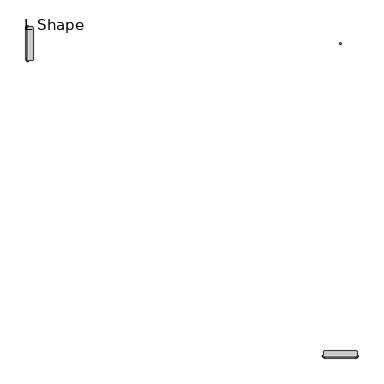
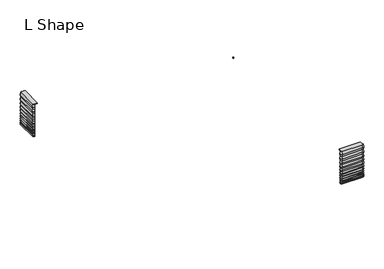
"""IFC4 building model written with IfcOpenShell, lengths in millimetres: light fixture geometry, Lighting-Ceiling-Betacalco-Bellows-L_Shape : L Shape."""

from ifc_helpers import new_model, si_unit, point, frame, frame_2d, origin, place, context, project, spatial, polyline, circle_curve, trimmed, segment, composite_curve, outline, extrude, source, transform, mapped, element, save
from ifc_brep_helpers import plane_surface, revolved_surface, advanced_brep


def l_shape_c2484b83(model_context):
    return source(origin(), model_context, "Body", "SolidModel", [
        advanced_brep(
        [(339.9474913, -609.6, 2.032), (338.1694913, -609.6, 0.0), (271.4305087, -609.6, 0.0), (269.6525087, -609.6, 2.032), (271.4305087, -609.6, 4.064), (269.6525087, -609.6, 6.604), (271.4305087, -609.6, 9.144), (269.6525087, -609.6, 12.192), (271.4305087, -609.6, 15.24), (269.6525087, -609.6, 18.796), (271.4305087, -609.6, 22.352), (269.6525087, -609.6, 26.162), (271.4305087, -609.6, 29.972), (269.68115, -609.6, 34.4703509), (271.4033085, -609.6, 39.0460566), (269.6760032, -609.6, 44.1288728), (271.4080872, -609.6, 49.2119386), (269.6721122, -609.6, 54.802389), (271.4117251, -609.6, 60.3929656), (269.6691034, -609.6, 66.491104), (271.4151056, -609.6, 72.5911894), (269.6648295, -609.6, 79.7067168), (271.4184005, -609.6, 86.8195673), (269.6640174, -609.6, 94.186321), (271.4305087, -609.6, 101.6), (272.1770822, -609.6, 101.6), (272.1770822, -609.6, 100.2332722), (337.4229178, -609.6, 100.2332722), (337.4229178, -609.6, 101.6), (338.1694913, -609.6, 101.6), (339.9359826, -609.6, 94.186321), (338.1815995, -609.6, 86.8195673), (339.9351705, -609.6, 79.7067168), (338.1848944, -609.6, 72.5911894), (339.9308966, -609.6, 66.491104), (338.1882749, -609.6, 60.3929656), (339.9278878, -609.6, 54.802389), (338.1919128, -609.6, 49.2119386), (339.9239968, -609.6, 44.1288728), (338.1966915, -609.6, 39.0460566), (339.91885, -609.6, 34.4703509), (338.1694913, -609.6, 29.972), (339.9474913, -609.6, 26.162), (338.1694913, -609.6, 22.352), (339.9474913, -609.6, 18.796), (338.1694913, -609.6, 15.24), (339.9474913, -609.6, 12.192), (338.1694913, -609.6, 9.144), (339.9474913, -609.6, 6.604), (338.1694913, -609.6, 4.064), (334.7564913, -614.791, 2.032), (334.7564913, -613.013, 0.0), (274.8435087, -613.013, 0.0), (334.7564913, -613.013, 101.6), (337.3154703, -600.7807007, 101.6), (336.2000598, -599.6222216, 101.6), (273.3999402, -599.6222216, 101.6), (272.2845297, -600.7807007, 101.6), (274.8435087, -613.013, 101.6), (334.7564913, -614.7794913, 94.186321), (334.7564913, -613.0251082, 86.8195673), (334.7564913, -614.7786792, 79.7067168), (334.7564913, -613.0284031, 72.5911894), (334.7564913, -614.7744054, 66.491104), (334.7564913, -613.0317837, 60.3929656), (334.7564913, -614.7713965, 54.802389), (334.7564913, -613.0354215, 49.2119386), (334.7564913, -614.7675055, 44.1288728), (334.7564913, -613.0402002, 39.0460566), (334.7564913, -614.7623587, 34.4703509), (334.7564913, -613.013, 29.972), (334.7564913, -614.791, 26.162), (334.7564913, -613.013, 22.352), (334.7564913, -614.791, 18.796), (334.7564913, -613.013, 15.24), (334.7564913, -614.791, 12.192), (334.7564913, -613.013, 9.144), (334.7564913, -614.791, 6.604), (334.7564913, -613.013, 4.064), (274.8435087, -614.791, 2.032), (274.8435087, -614.7794913, 94.186321), (274.8435087, -613.0251082, 86.8195673), (274.8435087, -614.7786792, 79.7067168), (274.8435087, -613.0284031, 72.5911894), (274.8435087, -614.7744054, 66.491104), (274.8435087, -613.0317837, 60.3929656), (274.8435087, -614.7713965, 54.802389), (274.8435087, -613.0354215, 49.2119386), (274.8435087, -614.7675055, 44.1288728), (274.8435087, -613.0402002, 39.0460566), (274.8435087, -614.7623587, 34.4703509), (274.8435087, -613.013, 29.972), (274.8435087, -614.791, 26.162), (274.8435087, -613.013, 22.352), (274.8435087, -614.791, 18.796), (274.8435087, -613.013, 15.24), (274.8435087, -614.791, 12.192), (274.8435087, -613.013, 9.144), (274.8435087, -614.791, 6.604), (274.8435087, -613.013, 4.064), (273.3999402, -599.6222216, 100.2332722), (336.2000598, -599.6222216, 100.2332722), (337.3154703, -600.7807007, 100.2332722), (272.2845297, -600.7807007, 100.2332722)],
        [
            (0, 1),
            (1, 2),
            (2, 3),
            (3, 4),
            (4, 5),
            (5, 6),
            (6, 7),
            (7, 8),
            (8, 9),
            (9, 10),
            (10, 11),
            (11, 12),
            (12, 13),
            (13, 14),
            (14, 15),
            (15, 16),
            (16, 17),
            (17, 18),
            (18, 19),
            (19, 20),
            (20, 21),
            (21, 22),
            (22, 23),
            (23, 24),
            (24, 25),
            (25, 26),
            (26, 27),
            (27, 28),
            (28, 29),
            (29, 30),
            (30, 31),
            (31, 32),
            (32, 33),
            (33, 34),
            (34, 35),
            (35, 36),
            (36, 37),
            (37, 38),
            (38, 39),
            (39, 40),
            (40, 41),
            (41, 42),
            (42, 43),
            (43, 44),
            (44, 45),
            (45, 46),
            (46, 47),
            (47, 48),
            (48, 49),
            (49, 0),
            (0, 50, circle_curve(frame((334.7564913, -609.6, 2.032), z_axis=(0.0, 0.0, -1.0), x_axis=(1.0, 0.0, 0.0)), 5.191)),
            (50, 51),
            (51, 1, circle_curve(frame((334.7564913, -609.6, 0.0), z_axis=(0.0, 0.0, 1.0), x_axis=(1.0, 0.0, 0.0)), 3.413)),
            (51, 52),
            (52, 2, circle_curve(frame((274.8435087, -609.6, 0.0), z_axis=(0.0, 0.0, -1.0), x_axis=(0.0, -1.0, 0.0)), 3.413)),
            (53, 29, circle_curve(frame((334.7564913, -609.6, 101.6), z_axis=(0.0, 0.0, 1.0), x_axis=(1.0, 0.0, 0.0)), 3.413)),
            (28, 54),
            (54, 55),
            (55, 56),
            (56, 57),
            (57, 25),
            (24, 58, circle_curve(frame((274.8435087, -609.6, 101.6), z_axis=(0.0, 0.0, 1.0), x_axis=(0.0, -1.0, 0.0)), 3.413)),
            (58, 53),
            (53, 59),
            (59, 30, circle_curve(frame((334.7564913, -609.6, 94.186321), z_axis=(0.0, 0.0, 1.0), x_axis=(1.0, 0.0, 0.0)), 5.1794913)),
            (59, 60),
            (60, 31, circle_curve(frame((334.7564913, -609.6, 86.8195673), z_axis=(0.0, 0.0, 1.0), x_axis=(1.0, 0.0, 0.0)), 3.4251082)),
            (60, 61),
            (61, 32, circle_curve(frame((334.7564913, -609.6, 79.7067168), z_axis=(0.0, 0.0, 1.0), x_axis=(1.0, 0.0, 0.0)), 5.1786792)),
            (61, 62),
            (62, 33, circle_curve(frame((334.7564913, -609.6, 72.5911894), z_axis=(0.0, 0.0, 1.0), x_axis=(1.0, 0.0, 0.0)), 3.4284031)),
            (62, 63),
            (63, 34, circle_curve(frame((334.7564913, -609.6, 66.491104), z_axis=(0.0, 0.0, 1.0), x_axis=(1.0, 0.0, 0.0)), 5.1744054)),
            (63, 64),
            (64, 35, circle_curve(frame((334.7564913, -609.6, 60.3929656), z_axis=(0.0, 0.0, 1.0), x_axis=(1.0, 0.0, 0.0)), 3.4317837)),
            (64, 65),
            (65, 36, circle_curve(frame((334.7564913, -609.6, 54.802389), z_axis=(0.0, 0.0, 1.0), x_axis=(1.0, 0.0, 0.0)), 5.1713965)),
            (65, 66),
            (66, 37, circle_curve(frame((334.7564913, -609.6, 49.2119386), z_axis=(0.0, 0.0, 1.0), x_axis=(1.0, 0.0, 0.0)), 3.4354215)),
            (66, 67),
            (67, 38, circle_curve(frame((334.7564913, -609.6, 44.1288728), z_axis=(0.0, 0.0, 1.0), x_axis=(1.0, 0.0, 0.0)), 5.1675055)),
            (67, 68),
            (68, 39, circle_curve(frame((334.7564913, -609.6, 39.0460566), z_axis=(0.0, 0.0, 1.0), x_axis=(1.0, 0.0, 0.0)), 3.4402002)),
            (68, 69),
            (69, 40, circle_curve(frame((334.7564913, -609.6, 34.4703509), z_axis=(0.0, 0.0, 1.0), x_axis=(1.0, 0.0, 0.0)), 5.1623587)),
            (69, 70),
            (70, 41, circle_curve(frame((334.7564913, -609.6, 29.972), z_axis=(0.0, 0.0, 1.0), x_axis=(1.0, 0.0, 0.0)), 3.413)),
            (70, 71),
            (71, 42, circle_curve(frame((334.7564913, -609.6, 26.162), z_axis=(0.0, 0.0, 1.0), x_axis=(1.0, 0.0, 0.0)), 5.191)),
            (71, 72),
            (72, 43, circle_curve(frame((334.7564913, -609.6, 22.352), z_axis=(0.0, 0.0, 1.0), x_axis=(1.0, 0.0, 0.0)), 3.413)),
            (72, 73),
            (73, 44, circle_curve(frame((334.7564913, -609.6, 18.796), z_axis=(0.0, 0.0, 1.0), x_axis=(1.0, 0.0, 0.0)), 5.191)),
            (73, 74),
            (74, 45, circle_curve(frame((334.7564913, -609.6, 15.24), z_axis=(0.0, 0.0, 1.0), x_axis=(1.0, 0.0, 0.0)), 3.413)),
            (74, 75),
            (75, 46, circle_curve(frame((334.7564913, -609.6, 12.192), z_axis=(0.0, 0.0, 1.0), x_axis=(1.0, 0.0, 0.0)), 5.191)),
            (75, 76),
            (76, 47, circle_curve(frame((334.7564913, -609.6, 9.144), z_axis=(0.0, 0.0, 1.0), x_axis=(1.0, 0.0, 0.0)), 3.413)),
            (76, 77),
            (77, 48, circle_curve(frame((334.7564913, -609.6, 6.604), z_axis=(0.0, 0.0, 1.0), x_axis=(1.0, 0.0, 0.0)), 5.191)),
            (77, 78),
            (78, 49, circle_curve(frame((334.7564913, -609.6, 4.064), z_axis=(0.0, 0.0, 1.0), x_axis=(1.0, 0.0, 0.0)), 3.413)),
            (78, 50),
            (50, 79),
            (79, 52),
            (58, 80),
            (80, 59),
            (80, 81),
            (81, 60),
            (81, 82),
            (82, 61),
            (82, 83),
            (83, 62),
            (83, 84),
            (84, 63),
            (84, 85),
            (85, 64),
            (85, 86),
            (86, 65),
            (86, 87),
            (87, 66),
            (87, 88),
            (88, 67),
            (88, 89),
            (89, 68),
            (89, 90),
            (90, 69),
            (90, 91),
            (91, 70),
            (91, 92),
            (92, 71),
            (92, 93),
            (93, 72),
            (93, 94),
            (94, 73),
            (94, 95),
            (95, 74),
            (95, 96),
            (96, 75),
            (96, 97),
            (97, 76),
            (97, 98),
            (98, 77),
            (98, 99),
            (99, 78),
            (99, 79),
            (100, 101),
            (101, 102),
            (102, 27),
            (26, 103),
            (103, 100),
            (56, 100),
            (103, 57),
            (102, 54),
            (101, 55),
            (79, 3, circle_curve(frame((274.8435087, -609.6, 2.032), z_axis=(0.0, 0.0, -1.0), x_axis=(0.0, -1.0, 0.0)), 5.191)),
            (23, 80, circle_curve(frame((274.8435087, -609.6, 94.186321), z_axis=(0.0, 0.0, 1.0), x_axis=(0.0, -1.0, 0.0)), 5.1794913)),
            (22, 81, circle_curve(frame((274.8435087, -609.6, 86.8195673), z_axis=(0.0, 0.0, 1.0), x_axis=(0.0, -1.0, 0.0)), 3.4251082)),
            (21, 82, circle_curve(frame((274.8435087, -609.6, 79.7067168), z_axis=(0.0, 0.0, 1.0), x_axis=(0.0, -1.0, 0.0)), 5.1786792)),
            (20, 83, circle_curve(frame((274.8435087, -609.6, 72.5911894), z_axis=(0.0, 0.0, 1.0), x_axis=(0.0, -1.0, 0.0)), 3.4284031)),
            (19, 84, circle_curve(frame((274.8435087, -609.6, 66.491104), z_axis=(0.0, 0.0, 1.0), x_axis=(0.0, -1.0, 0.0)), 5.1744054)),
            (18, 85, circle_curve(frame((274.8435087, -609.6, 60.3929656), z_axis=(0.0, 0.0, 1.0), x_axis=(0.0, -1.0, 0.0)), 3.4317837)),
            (17, 86, circle_curve(frame((274.8435087, -609.6, 54.802389), z_axis=(0.0, 0.0, 1.0), x_axis=(0.0, -1.0, 0.0)), 5.1713965)),
            (16, 87, circle_curve(frame((274.8435087, -609.6, 49.2119386), z_axis=(0.0, 0.0, 1.0), x_axis=(0.0, -1.0, 0.0)), 3.4354215)),
            (15, 88, circle_curve(frame((274.8435087, -609.6, 44.1288728), z_axis=(0.0, 0.0, 1.0), x_axis=(0.0, -1.0, 0.0)), 5.1675055)),
            (14, 89, circle_curve(frame((274.8435087, -609.6, 39.0460566), z_axis=(0.0, 0.0, 1.0), x_axis=(0.0, -1.0, 0.0)), 3.4402002)),
            (13, 90, circle_curve(frame((274.8435087, -609.6, 34.4703509), z_axis=(0.0, 0.0, 1.0), x_axis=(0.0, -1.0, 0.0)), 5.1623587)),
            (12, 91, circle_curve(frame((274.8435087, -609.6, 29.972), z_axis=(0.0, 0.0, 1.0), x_axis=(0.0, -1.0, 0.0)), 3.413)),
            (11, 92, circle_curve(frame((274.8435087, -609.6, 26.162), z_axis=(0.0, 0.0, 1.0), x_axis=(0.0, -1.0, 0.0)), 5.191)),
            (10, 93, circle_curve(frame((274.8435087, -609.6, 22.352), z_axis=(0.0, 0.0, 1.0), x_axis=(0.0, -1.0, 0.0)), 3.413)),
            (9, 94, circle_curve(frame((274.8435087, -609.6, 18.796), z_axis=(0.0, 0.0, 1.0), x_axis=(0.0, -1.0, 0.0)), 5.191)),
            (8, 95, circle_curve(frame((274.8435087, -609.6, 15.24), z_axis=(0.0, 0.0, 1.0), x_axis=(0.0, -1.0, 0.0)), 3.413)),
            (7, 96, circle_curve(frame((274.8435087, -609.6, 12.192), z_axis=(0.0, 0.0, 1.0), x_axis=(0.0, -1.0, 0.0)), 5.191)),
            (6, 97, circle_curve(frame((274.8435087, -609.6, 9.144), z_axis=(0.0, 0.0, 1.0), x_axis=(0.0, -1.0, 0.0)), 3.413)),
            (5, 98, circle_curve(frame((274.8435087, -609.6, 6.604), z_axis=(0.0, 0.0, 1.0), x_axis=(0.0, -1.0, 0.0)), 5.191)),
            (4, 99, circle_curve(frame((274.8435087, -609.6, 4.064), z_axis=(0.0, 0.0, 1.0), x_axis=(0.0, -1.0, 0.0)), 3.413)),
        ],
        [
            plane_surface(frame((340.1935941, -609.6, 0.0), z_axis=(0.0, 1.0, 0.0), x_axis=(0.0, 0.0, 1.0))),
            revolved_surface(polyline([(339.9474913, -609.6, 2.032), (338.1694913, -609.6, 0.0)]), (334.7564913, -609.6, 0.0), (0.0, 0.0, -1.0)),
            plane_surface(frame((334.7564913, -609.6, 0.0), z_axis=(0.0, 0.0, -1.0), x_axis=(1.0, 0.0, 0.0))),
            plane_surface(frame((334.7564913, -609.6, 101.6), z_axis=(0.0, 0.0, 1.0), x_axis=(1.0, 0.0, 0.0))),
            revolved_surface(polyline([(338.1694913, -609.6, 101.6), (339.9359826, -609.6, 94.186321)]), (334.7564913, -609.6, 0.0), (0.0, 0.0, -1.0)),
            revolved_surface(polyline([(339.9359826, -609.6, 94.186321), (338.1815995, -609.6, 86.8195673)]), (334.7564913, -609.6, 0.0), (0.0, 0.0, -1.0)),
            revolved_surface(polyline([(338.1815995, -609.6, 86.8195673), (339.9351705, -609.6, 79.7067168)]), (334.7564913, -609.6, 0.0), (0.0, 0.0, -1.0)),
            revolved_surface(polyline([(339.9351705, -609.6, 79.7067168), (338.1848944, -609.6, 72.5911894)]), (334.7564913, -609.6, 0.0), (0.0, 0.0, -1.0)),
            revolved_surface(polyline([(338.1848944, -609.6, 72.5911894), (339.9308966, -609.6, 66.491104)]), (334.7564913, -609.6, 0.0), (0.0, 0.0, -1.0)),
            revolved_surface(polyline([(339.9308966, -609.6, 66.491104), (338.1882749, -609.6, 60.3929656)]), (334.7564913, -609.6, 0.0), (0.0, 0.0, -1.0)),
            revolved_surface(polyline([(338.1882749, -609.6, 60.3929656), (339.9278878, -609.6, 54.802389)]), (334.7564913, -609.6, 0.0), (0.0, 0.0, -1.0)),
            revolved_surface(polyline([(339.9278878, -609.6, 54.802389), (338.1919128, -609.6, 49.2119386)]), (334.7564913, -609.6, 0.0), (0.0, 0.0, -1.0)),
            revolved_surface(polyline([(338.1919128, -609.6, 49.2119386), (339.9239968, -609.6, 44.1288728)]), (334.7564913, -609.6, 0.0), (0.0, 0.0, -1.0)),
            revolved_surface(polyline([(339.9239968, -609.6, 44.1288728), (338.1966915, -609.6, 39.0460566)]), (334.7564913, -609.6, 0.0), (0.0, 0.0, -1.0)),
            revolved_surface(polyline([(338.1966915, -609.6, 39.0460566), (339.91885, -609.6, 34.4703509)]), (334.7564913, -609.6, 0.0), (0.0, 0.0, -1.0)),
            revolved_surface(polyline([(339.91885, -609.6, 34.4703509), (338.1694913, -609.6, 29.972)]), (334.7564913, -609.6, 0.0), (0.0, 0.0, -1.0)),
            revolved_surface(polyline([(338.1694913, -609.6, 29.972), (339.9474913, -609.6, 26.162)]), (334.7564913, -609.6, 0.0), (0.0, 0.0, -1.0)),
            revolved_surface(polyline([(339.9474913, -609.6, 26.162), (338.1694913, -609.6, 22.352)]), (334.7564913, -609.6, 0.0), (0.0, 0.0, -1.0)),
            revolved_surface(polyline([(338.1694913, -609.6, 22.352), (339.9474913, -609.6, 18.796)]), (334.7564913, -609.6, 0.0), (0.0, 0.0, -1.0)),
            revolved_surface(polyline([(339.9474913, -609.6, 18.796), (338.1694913, -609.6, 15.24)]), (334.7564913, -609.6, 0.0), (0.0, 0.0, -1.0)),
            revolved_surface(polyline([(338.1694913, -609.6, 15.24), (339.9474913, -609.6, 12.192)]), (334.7564913, -609.6, 0.0), (0.0, 0.0, -1.0)),
            revolved_surface(polyline([(339.9474913, -609.6, 12.192), (338.1694913, -609.6, 9.144)]), (334.7564913, -609.6, 0.0), (0.0, 0.0, -1.0)),
            revolved_surface(polyline([(338.1694913, -609.6, 9.144), (339.9474913, -609.6, 6.604)]), (334.7564913, -609.6, 0.0), (0.0, 0.0, -1.0)),
            revolved_surface(polyline([(339.9474913, -609.6, 6.604), (338.1694913, -609.6, 4.064)]), (334.7564913, -609.6, 0.0), (0.0, 0.0, -1.0)),
            revolved_surface(polyline([(338.1694913, -609.6, 4.064), (339.9474913, -609.6, 2.032)]), (334.7564913, -609.6, 0.0), (0.0, 0.0, -1.0)),
            plane_surface(frame((334.7564913, -614.791, 2.032), z_axis=(0.0, -0.7525766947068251, -0.6585046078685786), x_axis=(-1.0, 0.0, 0.0))),
            plane_surface(frame((334.7564913, -613.013, 101.6), z_axis=(0.0, -0.9727668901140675, 0.23178562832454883), x_axis=(-1.0, 0.0, 0.0))),
            plane_surface(frame((334.7564913, -614.7794913, 94.186321), z_axis=(0.0, -0.9727944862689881, -0.23166978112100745), x_axis=(-1.0, 0.0, 0.0))),
            plane_surface(frame((334.7564913, -613.0251082, 86.8195673), z_axis=(0.0, -0.9709287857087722, 0.23936852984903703), x_axis=(-1.0, 0.0, 0.0))),
            plane_surface(frame((334.7564913, -614.7786792, 79.7067168), z_axis=(0.0, -0.9710540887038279, -0.23885970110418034), x_axis=(-1.0, 0.0, 0.0))),
            plane_surface(frame((334.7564913, -613.0284031, 72.5911894), z_axis=(0.0, -0.9613939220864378, 0.27517581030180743), x_axis=(-1.0, 0.0, 0.0))),
            plane_surface(frame((334.7564913, -614.7744054, 66.491104), z_axis=(0.0, -0.9615116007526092, -0.2747643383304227), x_axis=(-1.0, 0.0, 0.0))),
            plane_surface(frame((334.7564913, -613.0317837, 60.3929656), z_axis=(0.0, -0.9548411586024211, 0.29711674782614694), x_axis=(-1.0, 0.0, 0.0))),
            plane_surface(frame((334.7564913, -614.7713965, 54.802389), z_axis=(0.0, -0.9550153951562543, -0.29655622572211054), x_axis=(-1.0, 0.0, 0.0))),
            plane_surface(frame((334.7564913, -613.0354215, 49.2119386), z_axis=(0.0, -0.9465545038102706, 0.3225439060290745), x_axis=(-1.0, 0.0, 0.0))),
            plane_surface(frame((334.7564913, -614.7675055, 44.1288728), z_axis=(0.0, -0.9468211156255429, -0.3217604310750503), x_axis=(-1.0, 0.0, 0.0))),
            plane_surface(frame((334.7564913, -613.0402002, 39.0460566), z_axis=(0.0, -0.9359069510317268, 0.3522473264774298), x_axis=(-1.0, 0.0, 0.0))),
            plane_surface(frame((334.7564913, -614.7623587, 34.4703509), z_axis=(0.0, -0.9320046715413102, -0.36244626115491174), x_axis=(-1.0, 0.0, 0.0))),
            plane_surface(frame((334.7564913, -613.013, 29.972), z_axis=(0.0, -0.9061831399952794, 0.42288546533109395), x_axis=(-1.0, 0.0, 0.0))),
            plane_surface(frame((334.7564913, -614.791, 26.162), z_axis=(0.0, -0.9061831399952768, -0.42288546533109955), x_axis=(-1.0, 0.0, 0.0))),
            plane_surface(frame((334.7564913, -613.013, 22.352), z_axis=(0.0, -0.8944271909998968, 0.4472135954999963), x_axis=(-1.0, 0.0, 0.0))),
            plane_surface(frame((334.7564913, -614.791, 18.796), z_axis=(0.0, -0.8944271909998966, -0.44721359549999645), x_axis=(-1.0, 0.0, 0.0))),
            plane_surface(frame((334.7564913, -613.013, 15.24), z_axis=(0.0, -0.8637789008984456, 0.5038710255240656), x_axis=(-1.0, 0.0, 0.0))),
            plane_surface(frame((334.7564913, -614.791, 12.192), z_axis=(0.0, -0.8637789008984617, -0.503871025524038), x_axis=(-1.0, 0.0, 0.0))),
            plane_surface(frame((334.7564913, -613.013, 9.144), z_axis=(0.0, -0.8192319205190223, 0.5734623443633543), x_axis=(-1.0, 0.0, 0.0))),
            plane_surface(frame((334.7564913, -614.791, 6.604), z_axis=(0.0, -0.8192319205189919, -0.5734623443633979), x_axis=(-1.0, 0.0, 0.0))),
            plane_surface(frame((334.7564913, -613.013, 4.064), z_axis=(0.0, -0.7525766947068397, 0.6585046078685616), x_axis=(-1.0, 0.0, 0.0))),
            plane_surface(frame((273.3999402, -599.6222216, 100.2332722), z_axis=(0.0, 0.0, -1.0), x_axis=(0.6935894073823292, 0.7203705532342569, 0.0))),
            plane_surface(frame((273.3999402, -599.6222216, 101.6), z_axis=(-0.7203705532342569, 0.6935894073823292, 0.0), x_axis=(0.0, 0.0, -1.0))),
            plane_surface(frame((272.2845297, -600.7807007, 101.6), z_axis=(-0.9999257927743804, 0.012182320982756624, 0.0), x_axis=(0.0, 0.0, -1.0))),
            plane_surface(frame((337.4229178, -609.6, 101.6), z_axis=(0.9999257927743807, 0.012182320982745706, 0.0), x_axis=(0.0, 0.0, -1.0))),
            plane_surface(frame((337.3154703, -600.7807007, 101.6), z_axis=(0.7203705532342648, 0.693589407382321, 0.0), x_axis=(0.0, 0.0, -1.0))),
            plane_surface(frame((336.2000598, -599.6222216, 101.6), z_axis=(0.0, 1.0, 0.0), x_axis=(0.0, 0.0, -1.0))),
            revolved_surface(polyline([(274.8435087, -614.791, 2.032), (274.8435087, -613.013, 0.0)]), (274.8435087, -609.6, 0.0), (0.0, 0.0, -1.0)),
            revolved_surface(polyline([(274.8435087, -613.013, 101.6), (274.8435087, -614.7794913, 94.186321)]), (274.8435087, -609.6, 0.0), (0.0, 0.0, -1.0)),
            revolved_surface(polyline([(274.8435087, -614.7794913, 94.186321), (274.8435087, -613.0251082, 86.8195673)]), (274.8435087, -609.6, 0.0), (0.0, 0.0, -1.0)),
            revolved_surface(polyline([(274.8435087, -613.0251082, 86.8195673), (274.8435087, -614.7786792, 79.7067168)]), (274.8435087, -609.6, 0.0), (0.0, 0.0, -1.0)),
            revolved_surface(polyline([(274.8435087, -614.7786792, 79.7067168), (274.8435087, -613.0284031, 72.5911894)]), (274.8435087, -609.6, 0.0), (0.0, 0.0, -1.0)),
            revolved_surface(polyline([(274.8435087, -613.0284031, 72.5911894), (274.8435087, -614.7744054, 66.491104)]), (274.8435087, -609.6, 0.0), (0.0, 0.0, -1.0)),
            revolved_surface(polyline([(274.8435087, -614.7744054, 66.491104), (274.8435087, -613.0317837, 60.3929656)]), (274.8435087, -609.6, 0.0), (0.0, 0.0, -1.0)),
            revolved_surface(polyline([(274.8435087, -613.0317837, 60.3929656), (274.8435087, -614.7713965, 54.802389)]), (274.8435087, -609.6, 0.0), (0.0, 0.0, -1.0)),
            revolved_surface(polyline([(274.8435087, -614.7713965, 54.802389), (274.8435087, -613.0354215, 49.2119386)]), (274.8435087, -609.6, 0.0), (0.0, 0.0, -1.0)),
            revolved_surface(polyline([(274.8435087, -613.0354215, 49.2119386), (274.8435087, -614.7675055, 44.1288728)]), (274.8435087, -609.6, 0.0), (0.0, 0.0, -1.0)),
            revolved_surface(polyline([(274.8435087, -614.7675055, 44.1288728), (274.8435087, -613.0402002, 39.0460566)]), (274.8435087, -609.6, 0.0), (0.0, 0.0, -1.0)),
            revolved_surface(polyline([(274.8435087, -613.0402002, 39.0460566), (274.8435087, -614.7623587, 34.4703509)]), (274.8435087, -609.6, 0.0), (0.0, 0.0, -1.0)),
            revolved_surface(polyline([(274.8435087, -614.7623587, 34.4703509), (274.8435087, -613.013, 29.972)]), (274.8435087, -609.6, 0.0), (0.0, 0.0, -1.0)),
            revolved_surface(polyline([(274.8435087, -613.013, 29.972), (274.8435087, -614.791, 26.162)]), (274.8435087, -609.6, 0.0), (0.0, 0.0, -1.0)),
            revolved_surface(polyline([(274.8435087, -614.791, 26.162), (274.8435087, -613.013, 22.352)]), (274.8435087, -609.6, 0.0), (0.0, 0.0, -1.0)),
            revolved_surface(polyline([(274.8435087, -613.013, 22.352), (274.8435087, -614.791, 18.796)]), (274.8435087, -609.6, 0.0), (0.0, 0.0, -1.0)),
            revolved_surface(polyline([(274.8435087, -614.791, 18.796), (274.8435087, -613.013, 15.24)]), (274.8435087, -609.6, 0.0), (0.0, 0.0, -1.0)),
            revolved_surface(polyline([(274.8435087, -613.013, 15.24), (274.8435087, -614.791, 12.192)]), (274.8435087, -609.6, 0.0), (0.0, 0.0, -1.0)),
            revolved_surface(polyline([(274.8435087, -614.791, 12.192), (274.8435087, -613.013, 9.144)]), (274.8435087, -609.6, 0.0), (0.0, 0.0, -1.0)),
            revolved_surface(polyline([(274.8435087, -613.013, 9.144), (274.8435087, -614.791, 6.604)]), (274.8435087, -609.6, 0.0), (0.0, 0.0, -1.0)),
            revolved_surface(polyline([(274.8435087, -614.791, 6.604), (274.8435087, -613.013, 4.064)]), (274.8435087, -609.6, 0.0), (0.0, 0.0, -1.0)),
            revolved_surface(polyline([(274.8435087, -613.013, 4.064), (274.8435087, -614.791, 2.032)]), (274.8435087, -609.6, 0.0), (0.0, 0.0, -1.0)),
        ],
        [
            (0, [[1, 2, 3, 4, 5, 6, 7, 8, 9, 10, 11, 12, 13, 14, 15, 16, 17, 18, 19, 20, 21, 22, 23, 24, 25, 26, 27, 28, 29, 30, 31, 32, 33, 34, 35, 36, 37, 38, 39, 40, 41, 42, 43, 44, 45, 46, 47, 48, 49, 50]]),
            (1, [[-1, 51, 52, 53]]),
            (2, [[-2, -53, 54, 55]]),
            (3, [[56, -29, 57, 58, 59, 60, 61, -25, 62, 63]]),
            (4, [[-30, -56, 64, 65]]),
            (5, [[-31, -65, 66, 67]]),
            (6, [[-32, -67, 68, 69]]),
            (7, [[-33, -69, 70, 71]]),
            (8, [[-34, -71, 72, 73]]),
            (9, [[-35, -73, 74, 75]]),
            (10, [[-36, -75, 76, 77]]),
            (11, [[-37, -77, 78, 79]]),
            (12, [[-38, -79, 80, 81]]),
            (13, [[-39, -81, 82, 83]]),
            (14, [[-40, -83, 84, 85]]),
            (15, [[-41, -85, 86, 87]]),
            (16, [[-42, -87, 88, 89]]),
            (17, [[-43, -89, 90, 91]]),
            (18, [[-44, -91, 92, 93]]),
            (19, [[-45, -93, 94, 95]]),
            (20, [[-46, -95, 96, 97]]),
            (21, [[-47, -97, 98, 99]]),
            (22, [[-48, -99, 100, 101]]),
            (23, [[-49, -101, 102, 103]]),
            (24, [[-50, -103, 104, -51]]),
            (25, [[-52, 105, 106, -54]]),
            (26, [[-63, 107, 108, -64]]),
            (27, [[-66, -108, 109, 110]]),
            (28, [[-68, -110, 111, 112]]),
            (29, [[-70, -112, 113, 114]]),
            (30, [[-72, -114, 115, 116]]),
            (31, [[-74, -116, 117, 118]]),
            (32, [[-76, -118, 119, 120]]),
            (33, [[-78, -120, 121, 122]]),
            (34, [[-80, -122, 123, 124]]),
            (35, [[-82, -124, 125, 126]]),
            (36, [[-84, -126, 127, 128]]),
            (37, [[-86, -128, 129, 130]]),
            (38, [[-88, -130, 131, 132]]),
            (39, [[-90, -132, 133, 134]]),
            (40, [[-92, -134, 135, 136]]),
            (41, [[-94, -136, 137, 138]]),
            (42, [[-96, -138, 139, 140]]),
            (43, [[-98, -140, 141, 142]]),
            (44, [[-100, -142, 143, 144]]),
            (45, [[-102, -144, 145, 146]]),
            (46, [[-104, -146, 147, -105]]),
            (47, [[148, 149, 150, -27, 151, 152]]),
            (48, [[-60, 153, -152, 154]]),
            (49, [[-61, -154, -151, -26]]),
            (50, [[-57, -28, -150, 155]]),
            (51, [[-58, -155, -149, 156]]),
            (52, [[-59, -156, -148, -153]]),
            (53, [[-55, -106, 157, -3]]),
            (54, [[-62, -24, 158, -107]]),
            (55, [[-109, -158, -23, 159]]),
            (56, [[-111, -159, -22, 160]]),
            (57, [[-113, -160, -21, 161]]),
            (58, [[-115, -161, -20, 162]]),
            (59, [[-117, -162, -19, 163]]),
            (60, [[-119, -163, -18, 164]]),
            (61, [[-121, -164, -17, 165]]),
            (62, [[-123, -165, -16, 166]]),
            (63, [[-125, -166, -15, 167]]),
            (64, [[-127, -167, -14, 168]]),
            (65, [[-129, -168, -13, 169]]),
            (66, [[-131, -169, -12, 170]]),
            (67, [[-133, -170, -11, 171]]),
            (68, [[-135, -171, -10, 172]]),
            (69, [[-137, -172, -9, 173]]),
            (70, [[-139, -173, -8, 174]]),
            (71, [[-141, -174, -7, 175]]),
            (72, [[-143, -175, -6, 176]]),
            (73, [[-145, -176, -5, 177]]),
            (74, [[-147, -177, -4, -157]]),
        ],
    ),
        advanced_brep(
        [(-304.8, -35.1474913, 2.032), (-304.8, -33.3694913, 0.0), (-304.8, 33.3694913, 0.0), (-304.8, 35.1474913, 2.032), (-304.8, 33.3694913, 4.064), (-304.8, 35.1474913, 6.604), (-304.8, 33.3694913, 9.144), (-304.8, 35.1474913, 12.192), (-304.8, 33.3694913, 15.24), (-304.8, 35.1474913, 18.796), (-304.8, 33.3694913, 22.352), (-304.8, 35.1474913, 26.162), (-304.8, 33.3694913, 29.972), (-304.8, 35.11885, 34.4703509), (-304.8, 33.3966915, 39.0460566), (-304.8, 35.1239968, 44.1288728), (-304.8, 33.3919128, 49.2119386), (-304.8, 35.1278878, 54.802389), (-304.8, 33.3882749, 60.3929656), (-304.8, 35.1308966, 66.491104), (-304.8, 33.3848944, 72.5911894), (-304.8, 35.1351705, 79.7067168), (-304.8, 33.3815995, 86.8195673), (-304.8, 35.1359826, 94.186321), (-304.8, 33.3694913, 101.6), (-304.8, 32.6229178, 101.6), (-304.8, 32.6229178, 100.2332722), (-304.8, -32.6229178, 100.2332722), (-304.8, -32.6229178, 101.6), (-304.8, -33.3694913, 101.6), (-304.8, -35.1359826, 94.186321), (-304.8, -33.3815995, 86.8195673), (-304.8, -35.1351705, 79.7067168), (-304.8, -33.3848944, 72.5911894), (-304.8, -35.1308966, 66.491104), (-304.8, -33.3882749, 60.3929656), (-304.8, -35.1278878, 54.802389), (-304.8, -33.3919128, 49.2119386), (-304.8, -35.1239968, 44.1288728), (-304.8, -33.3966915, 39.0460566), (-304.8, -35.11885, 34.4703509), (-304.8, -33.3694913, 29.972), (-304.8, -35.1474913, 26.162), (-304.8, -33.3694913, 22.352), (-304.8, -35.1474913, 18.796), (-304.8, -33.3694913, 15.24), (-304.8, -35.1474913, 12.192), (-304.8, -33.3694913, 9.144), (-304.8, -35.1474913, 6.604), (-304.8, -33.3694913, 4.064), (-309.991, -29.9564913, 2.032), (-308.213, -29.9564913, 0.0), (-308.213, 29.9564913, 0.0), (-308.213, -29.9564913, 101.6), (-295.9807007, -32.5154703, 101.6), (-294.8222216, -31.4000598, 101.6), (-294.8222216, 31.4000598, 101.6), (-295.9807007, 32.5154703, 101.6), (-308.213, 29.9564913, 101.6), (-309.9794913, -29.9564913, 94.186321), (-308.2251082, -29.9564913, 86.8195673), (-309.9786792, -29.9564913, 79.7067168), (-308.2284031, -29.9564913, 72.5911894), (-309.9744054, -29.9564913, 66.491104), (-308.2317837, -29.9564913, 60.3929656), (-309.9713965, -29.9564913, 54.802389), (-308.2354215, -29.9564913, 49.2119386), (-309.9675055, -29.9564913, 44.1288728), (-308.2402002, -29.9564913, 39.0460566), (-309.9623587, -29.9564913, 34.4703509), (-308.213, -29.9564913, 29.972), (-309.991, -29.9564913, 26.162), (-308.213, -29.9564913, 22.352), (-309.991, -29.9564913, 18.796), (-308.213, -29.9564913, 15.24), (-309.991, -29.9564913, 12.192), (-308.213, -29.9564913, 9.144), (-309.991, -29.9564913, 6.604), (-308.213, -29.9564913, 4.064), (-309.991, 29.9564913, 2.032), (-309.9794913, 29.9564913, 94.186321), (-308.2251082, 29.9564913, 86.8195673), (-309.9786792, 29.9564913, 79.7067168), (-308.2284031, 29.9564913, 72.5911894), (-309.9744054, 29.9564913, 66.491104), (-308.2317837, 29.9564913, 60.3929656), (-309.9713965, 29.9564913, 54.802389), (-308.2354215, 29.9564913, 49.2119386), (-309.9675055, 29.9564913, 44.1288728), (-308.2402002, 29.9564913, 39.0460566), (-309.9623587, 29.9564913, 34.4703509), (-308.213, 29.9564913, 29.972), (-309.991, 29.9564913, 26.162), (-308.213, 29.9564913, 22.352), (-309.991, 29.9564913, 18.796), (-308.213, 29.9564913, 15.24), (-309.991, 29.9564913, 12.192), (-308.213, 29.9564913, 9.144), (-309.991, 29.9564913, 6.604), (-308.213, 29.9564913, 4.064), (-294.8222216, 31.4000598, 100.2332722), (-294.8222216, -31.4000598, 100.2332722), (-295.9807007, -32.5154703, 100.2332722), (-295.9807007, 32.5154703, 100.2332722)],
        [
            (0, 1),
            (1, 2),
            (2, 3),
            (3, 4),
            (4, 5),
            (5, 6),
            (6, 7),
            (7, 8),
            (8, 9),
            (9, 10),
            (10, 11),
            (11, 12),
            (12, 13),
            (13, 14),
            (14, 15),
            (15, 16),
            (16, 17),
            (17, 18),
            (18, 19),
            (19, 20),
            (20, 21),
            (21, 22),
            (22, 23),
            (23, 24),
            (24, 25),
            (25, 26),
            (26, 27),
            (27, 28),
            (28, 29),
            (29, 30),
            (30, 31),
            (31, 32),
            (32, 33),
            (33, 34),
            (34, 35),
            (35, 36),
            (36, 37),
            (37, 38),
            (38, 39),
            (39, 40),
            (40, 41),
            (41, 42),
            (42, 43),
            (43, 44),
            (44, 45),
            (45, 46),
            (46, 47),
            (47, 48),
            (48, 49),
            (49, 0),
            (0, 50, circle_curve(frame((-304.8, -29.9564913, 2.032), z_axis=(0.0, 0.0, -1.0), x_axis=(0.0, -1.0, 0.0)), 5.191)),
            (50, 51),
            (51, 1, circle_curve(frame((-304.8, -29.9564913, 0.0), z_axis=(0.0, 0.0, 1.0), x_axis=(0.0, -1.0, 0.0)), 3.413)),
            (51, 52),
            (52, 2, circle_curve(frame((-304.8, 29.9564913, 0.0), z_axis=(0.0, 0.0, -1.0), x_axis=(-1.0, 0.0, 0.0)), 3.413)),
            (53, 29, circle_curve(frame((-304.8, -29.9564913, 101.6), z_axis=(0.0, 0.0, 1.0), x_axis=(0.0, -1.0, 0.0)), 3.413)),
            (28, 54),
            (54, 55),
            (55, 56),
            (56, 57),
            (57, 25),
            (24, 58, circle_curve(frame((-304.8, 29.9564913, 101.6), z_axis=(0.0, 0.0, 1.0), x_axis=(-1.0, 0.0, 0.0)), 3.413)),
            (58, 53),
            (53, 59),
            (59, 30, circle_curve(frame((-304.8, -29.9564913, 94.186321), z_axis=(0.0, 0.0, 1.0), x_axis=(0.0, -1.0, 0.0)), 5.1794913)),
            (59, 60),
            (60, 31, circle_curve(frame((-304.8, -29.9564913, 86.8195673), z_axis=(0.0, 0.0, 1.0), x_axis=(0.0, -1.0, 0.0)), 3.4251082)),
            (60, 61),
            (61, 32, circle_curve(frame((-304.8, -29.9564913, 79.7067168), z_axis=(0.0, 0.0, 1.0), x_axis=(0.0, -1.0, 0.0)), 5.1786792)),
            (61, 62),
            (62, 33, circle_curve(frame((-304.8, -29.9564913, 72.5911894), z_axis=(0.0, 0.0, 1.0), x_axis=(0.0, -1.0, 0.0)), 3.4284031)),
            (62, 63),
            (63, 34, circle_curve(frame((-304.8, -29.9564913, 66.491104), z_axis=(0.0, 0.0, 1.0), x_axis=(0.0, -1.0, 0.0)), 5.1744054)),
            (63, 64),
            (64, 35, circle_curve(frame((-304.8, -29.9564913, 60.3929656), z_axis=(0.0, 0.0, 1.0), x_axis=(0.0, -1.0, 0.0)), 3.4317837)),
            (64, 65),
            (65, 36, circle_curve(frame((-304.8, -29.9564913, 54.802389), z_axis=(0.0, 0.0, 1.0), x_axis=(0.0, -1.0, 0.0)), 5.1713965)),
            (65, 66),
            (66, 37, circle_curve(frame((-304.8, -29.9564913, 49.2119386), z_axis=(0.0, 0.0, 1.0), x_axis=(0.0, -1.0, 0.0)), 3.4354215)),
            (66, 67),
            (67, 38, circle_curve(frame((-304.8, -29.9564913, 44.1288728), z_axis=(0.0, 0.0, 1.0), x_axis=(0.0, -1.0, 0.0)), 5.1675055)),
            (67, 68),
            (68, 39, circle_curve(frame((-304.8, -29.9564913, 39.0460566), z_axis=(0.0, 0.0, 1.0), x_axis=(0.0, -1.0, 0.0)), 3.4402002)),
            (68, 69),
            (69, 40, circle_curve(frame((-304.8, -29.9564913, 34.4703509), z_axis=(0.0, 0.0, 1.0), x_axis=(0.0, -1.0, 0.0)), 5.1623587)),
            (69, 70),
            (70, 41, circle_curve(frame((-304.8, -29.9564913, 29.972), z_axis=(0.0, 0.0, 1.0), x_axis=(0.0, -1.0, 0.0)), 3.413)),
            (70, 71),
            (71, 42, circle_curve(frame((-304.8, -29.9564913, 26.162), z_axis=(0.0, 0.0, 1.0), x_axis=(0.0, -1.0, 0.0)), 5.191)),
            (71, 72),
            (72, 43, circle_curve(frame((-304.8, -29.9564913, 22.352), z_axis=(0.0, 0.0, 1.0), x_axis=(0.0, -1.0, 0.0)), 3.413)),
            (72, 73),
            (73, 44, circle_curve(frame((-304.8, -29.9564913, 18.796), z_axis=(0.0, 0.0, 1.0), x_axis=(0.0, -1.0, 0.0)), 5.191)),
            (73, 74),
            (74, 45, circle_curve(frame((-304.8, -29.9564913, 15.24), z_axis=(0.0, 0.0, 1.0), x_axis=(0.0, -1.0, 0.0)), 3.413)),
            (74, 75),
            (75, 46, circle_curve(frame((-304.8, -29.9564913, 12.192), z_axis=(0.0, 0.0, 1.0), x_axis=(0.0, -1.0, 0.0)), 5.191)),
            (75, 76),
            (76, 47, circle_curve(frame((-304.8, -29.9564913, 9.144), z_axis=(0.0, 0.0, 1.0), x_axis=(0.0, -1.0, 0.0)), 3.413)),
            (76, 77),
            (77, 48, circle_curve(frame((-304.8, -29.9564913, 6.604), z_axis=(0.0, 0.0, 1.0), x_axis=(0.0, -1.0, 0.0)), 5.191)),
            (77, 78),
            (78, 49, circle_curve(frame((-304.8, -29.9564913, 4.064), z_axis=(0.0, 0.0, 1.0), x_axis=(0.0, -1.0, 0.0)), 3.413)),
            (78, 50),
            (50, 79),
            (79, 52),
            (58, 80),
            (80, 59),
            (80, 81),
            (81, 60),
            (81, 82),
            (82, 61),
            (82, 83),
            (83, 62),
            (83, 84),
            (84, 63),
            (84, 85),
            (85, 64),
            (85, 86),
            (86, 65),
            (86, 87),
            (87, 66),
            (87, 88),
            (88, 67),
            (88, 89),
            (89, 68),
            (89, 90),
            (90, 69),
            (90, 91),
            (91, 70),
            (91, 92),
            (92, 71),
            (92, 93),
            (93, 72),
            (93, 94),
            (94, 73),
            (94, 95),
            (95, 74),
            (95, 96),
            (96, 75),
            (96, 97),
            (97, 76),
            (97, 98),
            (98, 77),
            (98, 99),
            (99, 78),
            (99, 79),
            (100, 101),
            (101, 102),
            (102, 27),
            (26, 103),
            (103, 100),
            (56, 100),
            (103, 57),
            (102, 54),
            (101, 55),
            (79, 3, circle_curve(frame((-304.8, 29.9564913, 2.032), z_axis=(0.0, 0.0, -1.0), x_axis=(-1.0, 0.0, 0.0)), 5.191)),
            (23, 80, circle_curve(frame((-304.8, 29.9564913, 94.186321), z_axis=(0.0, 0.0, 1.0), x_axis=(-1.0, 0.0, 0.0)), 5.1794913)),
            (22, 81, circle_curve(frame((-304.8, 29.9564913, 86.8195673), z_axis=(0.0, 0.0, 1.0), x_axis=(-1.0, 0.0, 0.0)), 3.4251082)),
            (21, 82, circle_curve(frame((-304.8, 29.9564913, 79.7067168), z_axis=(0.0, 0.0, 1.0), x_axis=(-1.0, 0.0, 0.0)), 5.1786792)),
            (20, 83, circle_curve(frame((-304.8, 29.9564913, 72.5911894), z_axis=(0.0, 0.0, 1.0), x_axis=(-1.0, 0.0, 0.0)), 3.4284031)),
            (19, 84, circle_curve(frame((-304.8, 29.9564913, 66.491104), z_axis=(0.0, 0.0, 1.0), x_axis=(-1.0, 0.0, 0.0)), 5.1744054)),
            (18, 85, circle_curve(frame((-304.8, 29.9564913, 60.3929656), z_axis=(0.0, 0.0, 1.0), x_axis=(-1.0, 0.0, 0.0)), 3.4317837)),
            (17, 86, circle_curve(frame((-304.8, 29.9564913, 54.802389), z_axis=(0.0, 0.0, 1.0), x_axis=(-1.0, 0.0, 0.0)), 5.1713965)),
            (16, 87, circle_curve(frame((-304.8, 29.9564913, 49.2119386), z_axis=(0.0, 0.0, 1.0), x_axis=(-1.0, 0.0, 0.0)), 3.4354215)),
            (15, 88, circle_curve(frame((-304.8, 29.9564913, 44.1288728), z_axis=(0.0, 0.0, 1.0), x_axis=(-1.0, 0.0, 0.0)), 5.1675055)),
            (14, 89, circle_curve(frame((-304.8, 29.9564913, 39.0460566), z_axis=(0.0, 0.0, 1.0), x_axis=(-1.0, 0.0, 0.0)), 3.4402002)),
            (13, 90, circle_curve(frame((-304.8, 29.9564913, 34.4703509), z_axis=(0.0, 0.0, 1.0), x_axis=(-1.0, 0.0, 0.0)), 5.1623587)),
            (12, 91, circle_curve(frame((-304.8, 29.9564913, 29.972), z_axis=(0.0, 0.0, 1.0), x_axis=(-1.0, 0.0, 0.0)), 3.413)),
            (11, 92, circle_curve(frame((-304.8, 29.9564913, 26.162), z_axis=(0.0, 0.0, 1.0), x_axis=(-1.0, 0.0, 0.0)), 5.191)),
            (10, 93, circle_curve(frame((-304.8, 29.9564913, 22.352), z_axis=(0.0, 0.0, 1.0), x_axis=(-1.0, 0.0, 0.0)), 3.413)),
            (9, 94, circle_curve(frame((-304.8, 29.9564913, 18.796), z_axis=(0.0, 0.0, 1.0), x_axis=(-1.0, 0.0, 0.0)), 5.191)),
            (8, 95, circle_curve(frame((-304.8, 29.9564913, 15.24), z_axis=(0.0, 0.0, 1.0), x_axis=(-1.0, 0.0, 0.0)), 3.413)),
            (7, 96, circle_curve(frame((-304.8, 29.9564913, 12.192), z_axis=(0.0, 0.0, 1.0), x_axis=(-1.0, 0.0, 0.0)), 5.191)),
            (6, 97, circle_curve(frame((-304.8, 29.9564913, 9.144), z_axis=(0.0, 0.0, 1.0), x_axis=(-1.0, 0.0, 0.0)), 3.413)),
            (5, 98, circle_curve(frame((-304.8, 29.9564913, 6.604), z_axis=(0.0, 0.0, 1.0), x_axis=(-1.0, 0.0, 0.0)), 5.191)),
            (4, 99, circle_curve(frame((-304.8, 29.9564913, 4.064), z_axis=(0.0, 0.0, 1.0), x_axis=(-1.0, 0.0, 0.0)), 3.413)),
        ],
        [
            plane_surface(frame((-304.8, -35.3935941, 0.0), z_axis=(1.0, 0.0, 0.0), x_axis=(0.0, 0.0, 1.0))),
            revolved_surface(polyline([(-304.8, -35.1474913, 2.032), (-304.8, -33.3694913, 0.0)]), (-304.8, -29.9564913, 0.0), (0.0, 0.0, -1.0)),
            plane_surface(frame((-304.8, -29.9564913, 0.0), z_axis=(0.0, 0.0, -1.0), x_axis=(0.0, -1.0, 0.0))),
            plane_surface(frame((-304.8, -29.9564913, 101.6), z_axis=(0.0, 0.0, 1.0), x_axis=(0.0, -1.0, 0.0))),
            revolved_surface(polyline([(-304.8, -33.3694913, 101.6), (-304.8, -35.1359826, 94.186321)]), (-304.8, -29.9564913, 0.0), (0.0, 0.0, -1.0)),
            revolved_surface(polyline([(-304.8, -35.1359826, 94.186321), (-304.8, -33.3815995, 86.8195673)]), (-304.8, -29.9564913, 0.0), (0.0, 0.0, -1.0)),
            revolved_surface(polyline([(-304.8, -33.3815995, 86.8195673), (-304.8, -35.1351705, 79.7067168)]), (-304.8, -29.9564913, 0.0), (0.0, 0.0, -1.0)),
            revolved_surface(polyline([(-304.8, -35.1351705, 79.7067168), (-304.8, -33.3848944, 72.5911894)]), (-304.8, -29.9564913, 0.0), (0.0, 0.0, -1.0)),
            revolved_surface(polyline([(-304.8, -33.3848944, 72.5911894), (-304.8, -35.1308966, 66.491104)]), (-304.8, -29.9564913, 0.0), (0.0, 0.0, -1.0)),
            revolved_surface(polyline([(-304.8, -35.1308966, 66.491104), (-304.8, -33.3882749, 60.3929656)]), (-304.8, -29.9564913, 0.0), (0.0, 0.0, -1.0)),
            revolved_surface(polyline([(-304.8, -33.3882749, 60.3929656), (-304.8, -35.1278878, 54.802389)]), (-304.8, -29.9564913, 0.0), (0.0, 0.0, -1.0)),
            revolved_surface(polyline([(-304.8, -35.1278878, 54.802389), (-304.8, -33.3919128, 49.2119386)]), (-304.8, -29.9564913, 0.0), (0.0, 0.0, -1.0)),
            revolved_surface(polyline([(-304.8, -33.3919128, 49.2119386), (-304.8, -35.1239968, 44.1288728)]), (-304.8, -29.9564913, 0.0), (0.0, 0.0, -1.0)),
            revolved_surface(polyline([(-304.8, -35.1239968, 44.1288728), (-304.8, -33.3966915, 39.0460566)]), (-304.8, -29.9564913, 0.0), (0.0, 0.0, -1.0)),
            revolved_surface(polyline([(-304.8, -33.3966915, 39.0460566), (-304.8, -35.11885, 34.4703509)]), (-304.8, -29.9564913, 0.0), (0.0, 0.0, -1.0)),
            revolved_surface(polyline([(-304.8, -35.11885, 34.4703509), (-304.8, -33.3694913, 29.972)]), (-304.8, -29.9564913, 0.0), (0.0, 0.0, -1.0)),
            revolved_surface(polyline([(-304.8, -33.3694913, 29.972), (-304.8, -35.1474913, 26.162)]), (-304.8, -29.9564913, 0.0), (0.0, 0.0, -1.0)),
            revolved_surface(polyline([(-304.8, -35.1474913, 26.162), (-304.8, -33.3694913, 22.352)]), (-304.8, -29.9564913, 0.0), (0.0, 0.0, -1.0)),
            revolved_surface(polyline([(-304.8, -33.3694913, 22.352), (-304.8, -35.1474913, 18.796)]), (-304.8, -29.9564913, 0.0), (0.0, 0.0, -1.0)),
            revolved_surface(polyline([(-304.8, -35.1474913, 18.796), (-304.8, -33.3694913, 15.24)]), (-304.8, -29.9564913, 0.0), (0.0, 0.0, -1.0)),
            revolved_surface(polyline([(-304.8, -33.3694913, 15.24), (-304.8, -35.1474913, 12.192)]), (-304.8, -29.9564913, 0.0), (0.0, 0.0, -1.0)),
            revolved_surface(polyline([(-304.8, -35.1474913, 12.192), (-304.8, -33.3694913, 9.144)]), (-304.8, -29.9564913, 0.0), (0.0, 0.0, -1.0)),
            revolved_surface(polyline([(-304.8, -33.3694913, 9.144), (-304.8, -35.1474913, 6.604)]), (-304.8, -29.9564913, 0.0), (0.0, 0.0, -1.0)),
            revolved_surface(polyline([(-304.8, -35.1474913, 6.604), (-304.8, -33.3694913, 4.064)]), (-304.8, -29.9564913, 0.0), (0.0, 0.0, -1.0)),
            revolved_surface(polyline([(-304.8, -33.3694913, 4.064), (-304.8, -35.1474913, 2.032)]), (-304.8, -29.9564913, 0.0), (0.0, 0.0, -1.0)),
            plane_surface(frame((-309.991, -29.9564913, 2.032), z_axis=(-0.7525766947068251, 0.0, -0.6585046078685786), x_axis=(0.0, 1.0, 0.0))),
            plane_surface(frame((-308.213, -29.9564913, 101.6), z_axis=(-0.9727668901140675, 0.0, 0.23178562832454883), x_axis=(0.0, 1.0, 0.0))),
            plane_surface(frame((-309.9794913, -29.9564913, 94.186321), z_axis=(-0.9727944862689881, 0.0, -0.23166978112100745), x_axis=(0.0, 1.0, 0.0))),
            plane_surface(frame((-308.2251082, -29.9564913, 86.8195673), z_axis=(-0.9709287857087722, 0.0, 0.23936852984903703), x_axis=(0.0, 1.0, 0.0))),
            plane_surface(frame((-309.9786792, -29.9564913, 79.7067168), z_axis=(-0.9710540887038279, 0.0, -0.23885970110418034), x_axis=(0.0, 1.0, 0.0))),
            plane_surface(frame((-308.2284031, -29.9564913, 72.5911894), z_axis=(-0.9613939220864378, 0.0, 0.27517581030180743), x_axis=(0.0, 1.0, 0.0))),
            plane_surface(frame((-309.9744054, -29.9564913, 66.491104), z_axis=(-0.9615116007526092, 0.0, -0.2747643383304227), x_axis=(0.0, 1.0, 0.0))),
            plane_surface(frame((-308.2317837, -29.9564913, 60.3929656), z_axis=(-0.9548411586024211, 0.0, 0.29711674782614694), x_axis=(0.0, 1.0, 0.0))),
            plane_surface(frame((-309.9713965, -29.9564913, 54.802389), z_axis=(-0.9550153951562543, 0.0, -0.29655622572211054), x_axis=(0.0, 1.0, 0.0))),
            plane_surface(frame((-308.2354215, -29.9564913, 49.2119386), z_axis=(-0.9465545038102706, 0.0, 0.3225439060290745), x_axis=(0.0, 1.0, 0.0))),
            plane_surface(frame((-309.9675055, -29.9564913, 44.1288728), z_axis=(-0.9468211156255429, 0.0, -0.3217604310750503), x_axis=(0.0, 1.0, 0.0))),
            plane_surface(frame((-308.2402002, -29.9564913, 39.0460566), z_axis=(-0.9359069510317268, 0.0, 0.3522473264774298), x_axis=(0.0, 1.0, 0.0))),
            plane_surface(frame((-309.9623587, -29.9564913, 34.4703509), z_axis=(-0.9320046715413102, 0.0, -0.36244626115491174), x_axis=(0.0, 1.0, 0.0))),
            plane_surface(frame((-308.213, -29.9564913, 29.972), z_axis=(-0.9061831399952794, 0.0, 0.42288546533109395), x_axis=(0.0, 1.0, 0.0))),
            plane_surface(frame((-309.991, -29.9564913, 26.162), z_axis=(-0.9061831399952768, 0.0, -0.42288546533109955), x_axis=(0.0, 1.0, 0.0))),
            plane_surface(frame((-308.213, -29.9564913, 22.352), z_axis=(-0.8944271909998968, 0.0, 0.4472135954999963), x_axis=(0.0, 1.0, 0.0))),
            plane_surface(frame((-309.991, -29.9564913, 18.796), z_axis=(-0.8944271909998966, 0.0, -0.44721359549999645), x_axis=(0.0, 1.0, 0.0))),
            plane_surface(frame((-308.213, -29.9564913, 15.24), z_axis=(-0.8637789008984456, 0.0, 0.5038710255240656), x_axis=(0.0, 1.0, 0.0))),
            plane_surface(frame((-309.991, -29.9564913, 12.192), z_axis=(-0.8637789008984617, 0.0, -0.503871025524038), x_axis=(0.0, 1.0, 0.0))),
            plane_surface(frame((-308.213, -29.9564913, 9.144), z_axis=(-0.8192319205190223, 0.0, 0.5734623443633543), x_axis=(0.0, 1.0, 0.0))),
            plane_surface(frame((-309.991, -29.9564913, 6.604), z_axis=(-0.8192319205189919, 0.0, -0.5734623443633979), x_axis=(0.0, 1.0, 0.0))),
            plane_surface(frame((-308.213, -29.9564913, 4.064), z_axis=(-0.7525766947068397, 0.0, 0.6585046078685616), x_axis=(0.0, 1.0, 0.0))),
            plane_surface(frame((-294.8222216, 31.4000598, 100.2332722), z_axis=(0.0, 0.0, -1.0), x_axis=(0.7203705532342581, -0.6935894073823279, 0.0))),
            plane_surface(frame((-294.8222216, 31.4000598, 101.6), z_axis=(0.6935894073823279, 0.7203705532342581, 0.0), x_axis=(0.0, 0.0, -1.0))),
            plane_surface(frame((-295.9807007, 32.5154703, 101.6), z_axis=(0.012182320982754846, 0.9999257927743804, 0.0), x_axis=(0.0, 0.0, -1.0))),
            plane_surface(frame((-304.8, -32.6229178, 101.6), z_axis=(0.012182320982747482, -0.9999257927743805, 0.0), x_axis=(0.0, 0.0, -1.0))),
            plane_surface(frame((-295.9807007, -32.5154703, 101.6), z_axis=(0.6935894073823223, -0.7203705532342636, 0.0), x_axis=(0.0, 0.0, -1.0))),
            plane_surface(frame((-294.8222216, -31.4000598, 101.6), z_axis=(1.0, 0.0, 0.0), x_axis=(0.0, 0.0, -1.0))),
            revolved_surface(polyline([(-309.991, 29.9564913, 2.032), (-308.213, 29.9564913, 0.0)]), (-304.8, 29.9564913, 0.0), (0.0, 0.0, -1.0)),
            revolved_surface(polyline([(-308.213, 29.9564913, 101.6), (-309.9794913, 29.9564913, 94.186321)]), (-304.8, 29.9564913, 0.0), (0.0, 0.0, -1.0)),
            revolved_surface(polyline([(-309.9794913, 29.9564913, 94.186321), (-308.2251082, 29.9564913, 86.8195673)]), (-304.8, 29.9564913, 0.0), (0.0, 0.0, -1.0)),
            revolved_surface(polyline([(-308.2251082, 29.9564913, 86.8195673), (-309.9786792, 29.9564913, 79.7067168)]), (-304.8, 29.9564913, 0.0), (0.0, 0.0, -1.0)),
            revolved_surface(polyline([(-309.9786792, 29.9564913, 79.7067168), (-308.2284031, 29.9564913, 72.5911894)]), (-304.8, 29.9564913, 0.0), (0.0, 0.0, -1.0)),
            revolved_surface(polyline([(-308.2284031, 29.9564913, 72.5911894), (-309.9744054, 29.9564913, 66.491104)]), (-304.8, 29.9564913, 0.0), (0.0, 0.0, -1.0)),
            revolved_surface(polyline([(-309.9744054, 29.9564913, 66.491104), (-308.2317837, 29.9564913, 60.3929656)]), (-304.8, 29.9564913, 0.0), (0.0, 0.0, -1.0)),
            revolved_surface(polyline([(-308.2317837, 29.9564913, 60.3929656), (-309.9713965, 29.9564913, 54.802389)]), (-304.8, 29.9564913, 0.0), (0.0, 0.0, -1.0)),
            revolved_surface(polyline([(-309.9713965, 29.9564913, 54.802389), (-308.2354215, 29.9564913, 49.2119386)]), (-304.8, 29.9564913, 0.0), (0.0, 0.0, -1.0)),
            revolved_surface(polyline([(-308.2354215, 29.9564913, 49.2119386), (-309.9675055, 29.9564913, 44.1288728)]), (-304.8, 29.9564913, 0.0), (0.0, 0.0, -1.0)),
            revolved_surface(polyline([(-309.9675055, 29.9564913, 44.1288728), (-308.2402002, 29.9564913, 39.0460566)]), (-304.8, 29.9564913, 0.0), (0.0, 0.0, -1.0)),
            revolved_surface(polyline([(-308.2402002, 29.9564913, 39.0460566), (-309.9623587, 29.9564913, 34.4703509)]), (-304.8, 29.9564913, 0.0), (0.0, 0.0, -1.0)),
            revolved_surface(polyline([(-309.9623587, 29.9564913, 34.4703509), (-308.213, 29.9564913, 29.972)]), (-304.8, 29.9564913, 0.0), (0.0, 0.0, -1.0)),
            revolved_surface(polyline([(-308.213, 29.9564913, 29.972), (-309.991, 29.9564913, 26.162)]), (-304.8, 29.9564913, 0.0), (0.0, 0.0, -1.0)),
            revolved_surface(polyline([(-309.991, 29.9564913, 26.162), (-308.213, 29.9564913, 22.352)]), (-304.8, 29.9564913, 0.0), (0.0, 0.0, -1.0)),
            revolved_surface(polyline([(-308.213, 29.9564913, 22.352), (-309.991, 29.9564913, 18.796)]), (-304.8, 29.9564913, 0.0), (0.0, 0.0, -1.0)),
            revolved_surface(polyline([(-309.991, 29.9564913, 18.796), (-308.213, 29.9564913, 15.24)]), (-304.8, 29.9564913, 0.0), (0.0, 0.0, -1.0)),
            revolved_surface(polyline([(-308.213, 29.9564913, 15.24), (-309.991, 29.9564913, 12.192)]), (-304.8, 29.9564913, 0.0), (0.0, 0.0, -1.0)),
            revolved_surface(polyline([(-309.991, 29.9564913, 12.192), (-308.213, 29.9564913, 9.144)]), (-304.8, 29.9564913, 0.0), (0.0, 0.0, -1.0)),
            revolved_surface(polyline([(-308.213, 29.9564913, 9.144), (-309.991, 29.9564913, 6.604)]), (-304.8, 29.9564913, 0.0), (0.0, 0.0, -1.0)),
            revolved_surface(polyline([(-309.991, 29.9564913, 6.604), (-308.213, 29.9564913, 4.064)]), (-304.8, 29.9564913, 0.0), (0.0, 0.0, -1.0)),
            revolved_surface(polyline([(-308.213, 29.9564913, 4.064), (-309.991, 29.9564913, 2.032)]), (-304.8, 29.9564913, 0.0), (0.0, 0.0, -1.0)),
        ],
        [
            (0, [[1, 2, 3, 4, 5, 6, 7, 8, 9, 10, 11, 12, 13, 14, 15, 16, 17, 18, 19, 20, 21, 22, 23, 24, 25, 26, 27, 28, 29, 30, 31, 32, 33, 34, 35, 36, 37, 38, 39, 40, 41, 42, 43, 44, 45, 46, 47, 48, 49, 50]]),
            (1, [[-1, 51, 52, 53]]),
            (2, [[-2, -53, 54, 55]]),
            (3, [[56, -29, 57, 58, 59, 60, 61, -25, 62, 63]]),
            (4, [[-30, -56, 64, 65]]),
            (5, [[-31, -65, 66, 67]]),
            (6, [[-32, -67, 68, 69]]),
            (7, [[-33, -69, 70, 71]]),
            (8, [[-34, -71, 72, 73]]),
            (9, [[-35, -73, 74, 75]]),
            (10, [[-36, -75, 76, 77]]),
            (11, [[-37, -77, 78, 79]]),
            (12, [[-38, -79, 80, 81]]),
            (13, [[-39, -81, 82, 83]]),
            (14, [[-40, -83, 84, 85]]),
            (15, [[-41, -85, 86, 87]]),
            (16, [[-42, -87, 88, 89]]),
            (17, [[-43, -89, 90, 91]]),
            (18, [[-44, -91, 92, 93]]),
            (19, [[-45, -93, 94, 95]]),
            (20, [[-46, -95, 96, 97]]),
            (21, [[-47, -97, 98, 99]]),
            (22, [[-48, -99, 100, 101]]),
            (23, [[-49, -101, 102, 103]]),
            (24, [[-50, -103, 104, -51]]),
            (25, [[-52, 105, 106, -54]]),
            (26, [[-63, 107, 108, -64]]),
            (27, [[-66, -108, 109, 110]]),
            (28, [[-68, -110, 111, 112]]),
            (29, [[-70, -112, 113, 114]]),
            (30, [[-72, -114, 115, 116]]),
            (31, [[-74, -116, 117, 118]]),
            (32, [[-76, -118, 119, 120]]),
            (33, [[-78, -120, 121, 122]]),
            (34, [[-80, -122, 123, 124]]),
            (35, [[-82, -124, 125, 126]]),
            (36, [[-84, -126, 127, 128]]),
            (37, [[-86, -128, 129, 130]]),
            (38, [[-88, -130, 131, 132]]),
            (39, [[-90, -132, 133, 134]]),
            (40, [[-92, -134, 135, 136]]),
            (41, [[-94, -136, 137, 138]]),
            (42, [[-96, -138, 139, 140]]),
            (43, [[-98, -140, 141, 142]]),
            (44, [[-100, -142, 143, 144]]),
            (45, [[-102, -144, 145, 146]]),
            (46, [[-104, -146, 147, -105]]),
            (47, [[148, 149, 150, -27, 151, 152]]),
            (48, [[-60, 153, -152, 154]]),
            (49, [[-61, -154, -151, -26]]),
            (50, [[-57, -28, -150, 155]]),
            (51, [[-58, -155, -149, 156]]),
            (52, [[-59, -156, -148, -153]]),
            (53, [[-55, -106, 157, -3]]),
            (54, [[-62, -24, 158, -107]]),
            (55, [[-109, -158, -23, 159]]),
            (56, [[-111, -159, -22, 160]]),
            (57, [[-113, -160, -21, 161]]),
            (58, [[-115, -161, -20, 162]]),
            (59, [[-117, -162, -19, 163]]),
            (60, [[-119, -163, -18, 164]]),
            (61, [[-121, -164, -17, 165]]),
            (62, [[-123, -165, -16, 166]]),
            (63, [[-125, -166, -15, 167]]),
            (64, [[-127, -167, -14, 168]]),
            (65, [[-129, -168, -13, 169]]),
            (66, [[-131, -169, -12, 170]]),
            (67, [[-133, -170, -11, 171]]),
            (68, [[-135, -171, -10, 172]]),
            (69, [[-137, -172, -9, 173]]),
            (70, [[-139, -173, -8, 174]]),
            (71, [[-141, -174, -7, 175]]),
            (72, [[-143, -175, -6, 176]]),
            (73, [[-145, -176, -5, 177]]),
            (74, [[-147, -177, -4, -157]]),
        ],
    ),
        extrude(outline(composite_curve([segment(trimmed(circle_curve(frame_2d((304.8, 0.0)), 1.5875), [point((303.2125, 0.0))], [point((306.3875, 0.0))], False, "CARTESIAN"), True, "CONTINUOUS"), segment(trimmed(circle_curve(frame_2d((304.8, 0.0)), 1.5875), [point((306.3875, 0.0))], [point((303.2125, 0.0))], False, "CARTESIAN"), True, "CONTINUOUS")], self_intersect=False)), frame((0.0, 0.0, 13.5891701), z_axis=(0.0, 0.0, 1.0), x_axis=(1.0, 0.0, 0.0)), (0.0, 0.0, 1.0), 1.2441624),
    ])


if __name__ == "__main__":
    model = new_model("IFC4")
    model_context = context("Model", 3, world=origin())
    ifc_project = project(units=[si_unit("LENGTHUNIT", "METRE", prefix="MILLI")], contexts=[model_context])
    site = spatial("IfcSite", under=ifc_project)
    building = spatial("IfcBuilding", under=site)
    placement = place(None, origin())
    l_shape_shape = l_shape_c2484b83(model_context)
    element("IfcLightFixture", 1, ObjectType="Lighting-Ceiling-Betacalco-Bellows-L_Shape : L Shape", at=placement, inside=building, context=model_context, shape_type="MappedRepresentation", body=[
        mapped(l_shape_shape, transform((0.0, 0.0, 0.0), x_axis=(1.0, 0.0, 0.0), y_axis=(0.0, 1.0, 0.0), z_axis=(0.0, 0.0, 1.0))),
    ])
    save(model, "model.ifc")
